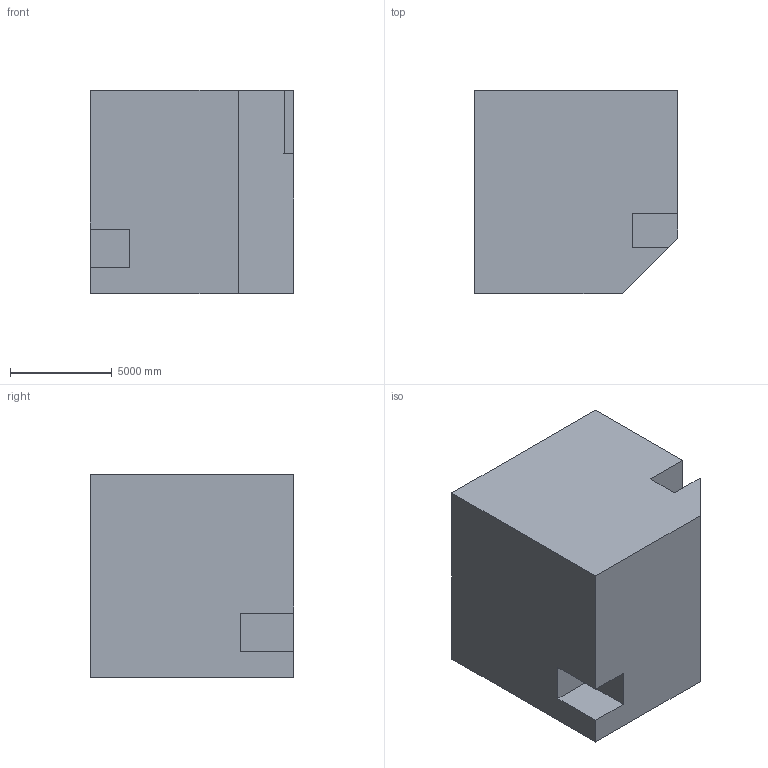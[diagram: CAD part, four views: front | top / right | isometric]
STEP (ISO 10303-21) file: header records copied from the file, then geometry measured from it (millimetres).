
FILE_DESCRIPTION (( 'STEP AP203' ), '1' );
FILE_NAME ('83.STEP', '2022-08-31T11:27:53', ( 'user' ), ( '' ), 'SwSTEP 2.0', 'SolidWorks 2021', '' );
FILE_SCHEMA (( 'CONFIG_CONTROL_DESIGN' ));
Length unit declared in the file: centimetre
Products named in the file (1): 83
Bounding box: 10000 x 10000 x 10000 mm (x, y, z)
Volume: 904594937732.8 mm3; surface area: 677675963.7 mm2
Topology: 1 solids, 1 shells, 25 faces, 60 edges, 40 vertices
Faces by surface type: plane 21, cylinder 4
Entity records: 799 total; most frequent: CARTESIAN_POINT 126, ORIENTED_EDGE 120, DIRECTION 120, EDGE_CURVE 60, LINE 52, VECTOR 52, VERTEX_POINT 40, AXIS2_PLACEMENT_3D 34
